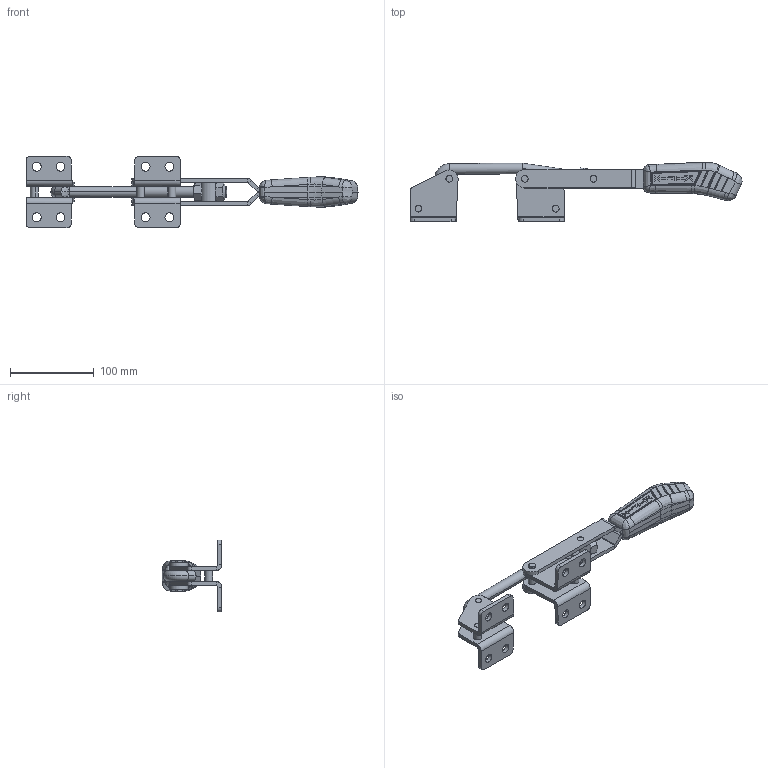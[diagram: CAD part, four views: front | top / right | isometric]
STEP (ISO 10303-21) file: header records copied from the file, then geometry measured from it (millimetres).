
FILE_DESCRIPTION (( 'STEP AP203' ), '1' );
FILE_NAME ('KF-553 D.STEP', '2014-08-21T18:41:05', ( 'Ricardo' ), ( '' ), 'SwSTEP 2.0', 'SolidWorks 2013', '' );
FILE_SCHEMA (( 'CONFIG_CONTROL_DESIGN' ));
Length unit declared in the file: millimetre
Products named in the file (12): 03.20007; 11.50024; 02.12014_Direita; 11.50004; 02.12014_Esquerda; 07.60003; 01.10064_Direita; KF-553 D; 01.10064_Esquerda; 16.20009; 16.20010; 16.20011
Assembly tree (15 placements, depth 2):
  KF-553 D
    02.12014_Direita  x2
    02.12014_Esquerda  x2
    01.10064_Direita
    01.10064_Esquerda
    16.20009  x3
    16.20010
    16.20011
    03.20007
    11.50024
    11.50004
    07.60003
Bounding box: 396.67 x 71.21 x 85.5 mm (x, y, z)
Volume: 278204.3 mm3; surface area: 107181.2 mm2
Topology: 15 solids, 15 shells, 670 faces, 1658 edges, 1036 vertices
Faces by surface type: plane 233, cylinder 217, bspline 147, sphere 50, cone 18, torus 5
Entity records: 22699 total; most frequent: CARTESIAN_POINT 8678, ORIENTED_EDGE 2924, DIRECTION 2209, EDGE_CURVE 1462, VERTEX_POINT 916, AXIS2_PLACEMENT_3D 873, EDGE_LOOP 654, FACE_OUTER_BOUND 594
